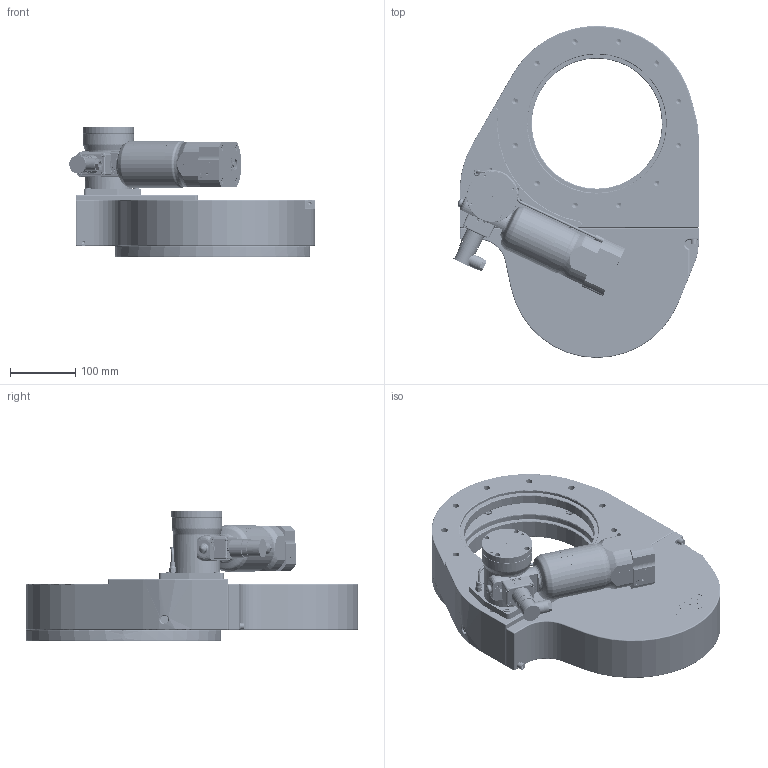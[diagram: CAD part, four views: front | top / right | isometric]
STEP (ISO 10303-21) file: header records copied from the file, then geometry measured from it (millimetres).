
FILE_DESCRIPTION(/* description */ (''),/* implementation_level */ '2;1');
FILE_NAME(/* name */ '1429235232_203.stp',/* time_stamp */ '2012-02-08T16:24:44+01:00',/* author */ (''),/* organization */ (''),/* preprocessor_version */ 'ST-DEVELOPER v11',/* originating_system */ 'SIEMENS PLM Software NX 7.5',/* authorisation */ '');
FILE_SCHEMA (('CONFIG_CONTROL_DESIGN'));
Length unit declared in the file: millimetre
Products named in the file (54): 75429-01_18246ID; 69252-01_18244ID; 69252-01_18247ID; 82555-01; n-8210-239; 82610-01; n-8406-007; n-8406-551; n-6030-011; 69672-01; n-8406-006_1; 248044.2; 250743; N-5002-497.1; N-6203-418.1; N-6091-462.1; N-6121-017.2; N-7607-023.1; N-6071-446.1; 244325.4; N-6005-461.1; N-6005-439_1.1; 265356.2; 265557.2; 244151.3; 244067.5; 218188.1; 242111.11; 222717.1; 242118.14; 244326.2; 242117.8; 310619.1; 310276.1; 247374.3; 69846-01; n-6024-531; N-8504-005.2; 387207_18210ID; n-7636-200.2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
Assembly tree (89 placements, depth 4):
  235313
    247528.5
      247529.4
      N-6091-494.1  x2
      n-7636-200.2
    237443.8_MODEL
      387207_18210ID
    248240.11
    228776.1  x2
    228777  x11
    n-6134-408  x2
    310926.1
      N-8504-005.2
      71852-r1
        n-8406-006_1
        69672-01
        n-6030-011  x4
        n-8406-551  x2
        n-8406-007
        82610-01
        n-8210-239  x4
        82555-01
      n-6024-531  x4
      69428-r1_MODEL
        69252-01_18247ID
        69252-01_18244ID
        75429-01_18246ID
      69846-01
    310931.1
    310754.3_NX-ARRAGMNTEXPLOSIONE
      247374.3
      310276.1
      310619.1
      242117.8
      244326.2
      242118.14
      222717.1  x2
      242111.11
      218188.1  x3
      244067.5
      244151.3
      265557.2
      265356.2
      N-6005-439_1.1  x8
      N-6005-461.1  x4
      244325.4
      N-6071-446.1
      N-7607-023.1
      N-6121-017.2
      N-6091-462.1
      N-6203-418.1
      N-5002-497.1
      250743
      248044.2
Bounding box: 377.02 x 510 x 199.8 mm (x, y, z)
Volume: 5464399.4 mm3; surface area: 1098558.8 mm2
Topology: 142 solids, 142 shells, 3912 faces, 9275 edges, 5929 vertices
Faces by surface type: plane 2010, cylinder 970, bspline 313, cone 289, extrusion 173, torus 125, sphere 29, revolution 3
Full cylindrical faces by diameter (mm): 0.5 x2, 1 x8, 1.2 x10, 1.5 x11, 1.6 x6, 1.95 x4, 2 x5, 2.2 x4, 2.25 x6, 2.3 x4, 2.5 x18, 2.7 x4, 2.8 x3, 2.856 x4, 3 x14, 3.2 x6, 3.26 x9, 3.3 x17, 3.4 x4, 3.5 x4, 3.8 x1, 3.9 x4, 4 x36, 4.025 x1, 4.054 x1, 4.16 x4, 4.2 x11, 4.5 x8, 4.96 x5, 5 x37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
Entity records: 117173 total; most frequent: CARTESIAN_POINT 37089, DIRECTION 14430, ORIENTED_EDGE 14166, EDGE_CURVE 7083, AXIS2_PLACEMENT_3D 5480, VERTEX_POINT 5086, EDGE_LOOP 4787, VECTOR 3467
